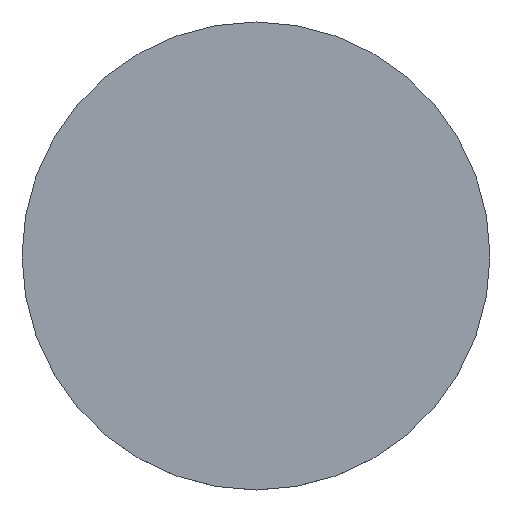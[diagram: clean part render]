
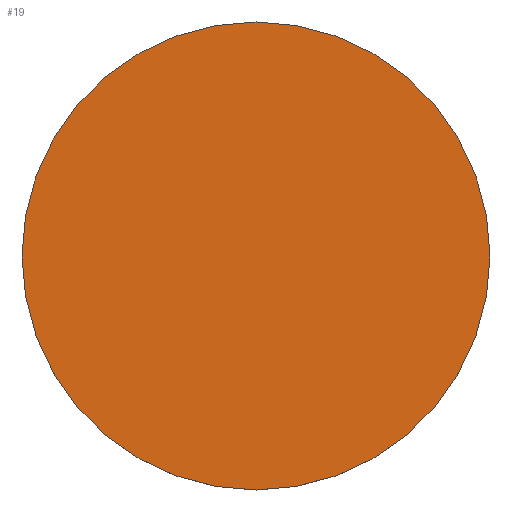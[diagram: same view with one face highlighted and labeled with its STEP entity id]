
A CAD part, top view. The second image highlights one B-rep face of the part: STEP entity #19.
In plain terms, the highlighted planar face has unit normal (0, 0, 1).
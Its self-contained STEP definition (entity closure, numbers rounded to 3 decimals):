
#19=ADVANCED_FACE('',(#101),#1511,.T.);
#101=FACE_OUTER_BOUND('',#183,.T.);
#183=EDGE_LOOP('',(#272,#273));
#272=ORIENTED_EDGE('',*,*,#734,.F.);
#273=ORIENTED_EDGE('',*,*,#730,.F.);
#730=EDGE_CURVE('',#1354,#1355,#1042,.T.);
#734=EDGE_CURVE('',#1355,#1354,#1044,.T.);
#1042=TRIMMED_CURVE($,#1198,(#2327),(#2328),.T.,.CARTESIAN.);
#1044=TRIMMED_CURVE($,#1200,(#2337),(#2338),.T.,.CARTESIAN.);
#1198=CIRCLE('',#1684,200.);
#1200=CIRCLE('',#1686,200.);
#1354=VERTEX_POINT('',#2322);
#1355=VERTEX_POINT('',#2323);
#1511=PLANE('',#1683);
#1683=AXIS2_PLACEMENT_3D('',#2321,#1924,$);
#1684=AXIS2_PLACEMENT_3D($,#2326,#1925,#1926);
#1686=AXIS2_PLACEMENT_3D($,#2336,#1929,#1930);
#1924=DIRECTION('',(0.,0.,1.));
#1925=DIRECTION('',(0.,0.,-1.));
#1926=DIRECTION('',(-1.,0.,0.));
#1929=DIRECTION('',(0.,0.,-1.));
#1930=DIRECTION('',(1.,0.,0.));
#2321=CARTESIAN_POINT('',(200.01,-200.01,500.));
#2322=CARTESIAN_POINT('',(-200.,0.,500.));
#2323=CARTESIAN_POINT('',(200.,0.,500.));
#2326=CARTESIAN_POINT('',(0.,0.,500.));
#2327=CARTESIAN_POINT('',(-200.,0.,500.));
#2328=CARTESIAN_POINT('',(200.,0.,500.));
#2336=CARTESIAN_POINT('',(0.,0.,500.));
#2337=CARTESIAN_POINT('',(200.,0.,500.));
#2338=CARTESIAN_POINT('',(-200.,0.,500.));
